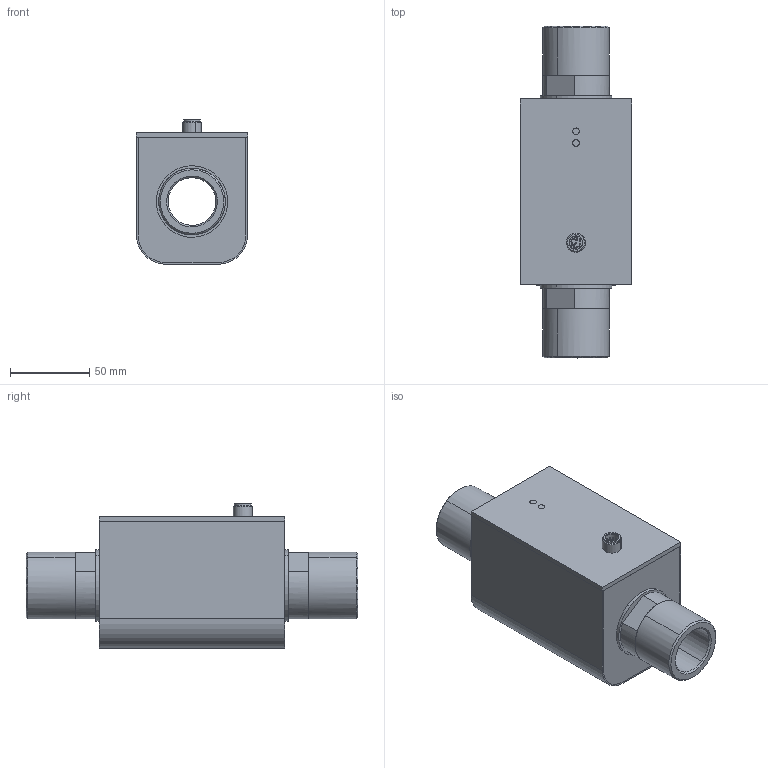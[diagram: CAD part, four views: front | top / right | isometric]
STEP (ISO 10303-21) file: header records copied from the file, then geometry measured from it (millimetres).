
FILE_DESCRIPTION (( 'STEP AP203' ), '1' );
FILE_NAME ('F32_Thread_DN32.STEP', '2020-05-08T09:41:59', ( 'Uživatel systému Windows' ), ( '' ), 'SwSTEP 2.0', 'SolidWorks 2017', '' );
FILE_SCHEMA (( 'CONFIG_CONTROL_DESIGN' ));
Length unit declared in the file: millimetre
Products named in the file (8): F32_Thread_DN32; F32-130-5-12_2019(F32DN32 Výpylek èela); F32-90-7-12_2019(F32_DN32_Kryt Plech); F32-90-8-12_2019(F32 DN32 閣咜ek Plech bez displeje); FPW_Svìtlovod; FPW_Svìtlovod2; Konektor M12_8pin; F32-11-23-3_2019 (F32 G1 1_4 šroubení DN30)
Assembly tree (9 placements, depth 2):
  F32_Thread_DN32
    F32-130-5-12_2019(F32DN32 Výpylek èela)  x2
    F32-90-7-12_2019(F32_DN32_Kryt Plech)
    F32-90-8-12_2019(F32 DN32 閣咜ek Plech bez displeje)
    FPW_Svìtlovod
    FPW_Svìtlovod2
    Konektor M12_8pin
    F32-11-23-3_2019 (F32 G1 1_4 šroubení DN30)  x2
Bounding box: 70 x 209 x 91 mm (x, y, z)
Volume: 159354.4 mm3; surface area: 128464.5 mm2
Topology: 9 solids, 9 shells, 517 faces, 1330 edges, 864 vertices
Faces by surface type: plane 324, cylinder 139, cone 26, bspline 20, torus 8
Entity records: 15377 total; most frequent: CARTESIAN_POINT 2855, ORIENTED_EDGE 2416, DIRECTION 2399, EDGE_CURVE 1208, VECTOR 899, LINE 899, VERTEX_POINT 796, AXIS2_PLACEMENT_3D 750
